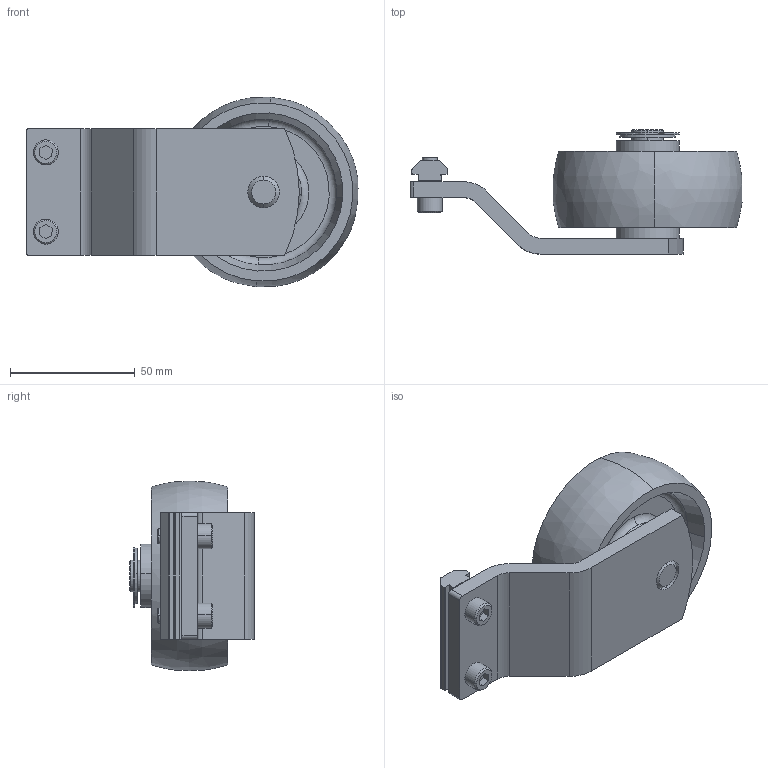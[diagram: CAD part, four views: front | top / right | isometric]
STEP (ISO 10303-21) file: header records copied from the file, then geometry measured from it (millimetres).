
FILE_DESCRIPTION((''),'2;1');
FILE_NAME('390207_ASM','2016-07-21T',('adam.dellomodarme'),(''),'PRO/ENGINEER BY PARAMETRIC TECHNOLOGY CORPORATION, 2012420','PRO/ENGINEER BY PARAMETRIC TECHNOLOGY CORPORATION, 2012420','');
FILE_SCHEMA(('CONFIG_CONTROL_DESIGN'));
Length unit declared in the file: inch
Products named in the file (10): 300748P-1-SOLID1; 300747-1-SOLID1; 300749M_CAE_ASM; 911-518; X920616M; 639717M; 807-849; 915-218; ASM0001_ASM; 390207_ASM
Assembly tree (10 placements, depth 4):
  390207_ASM
    ASM0001_ASM
      300749M_CAE_ASM
        300748P-1-SOLID1
        300747-1-SOLID1
      911-518
      X920616M  x2
      639717M
      807-849
      915-218
Bounding box: 133.02 x 49.81 x 75.98 mm (x, y, z)
Volume: 139986.4 mm3; surface area: 42169.4 mm2
Topology: 8 solids, 8 shells, 159 faces, 391 edges, 258 vertices
Faces by surface type: cylinder 66, plane 63, cone 20, torus 8, bspline 2
Entity records: 4670 total; most frequent: DIRECTION 871, CARTESIAN_POINT 811, ORIENTED_EDGE 706, EDGE_CURVE 353, AXIS2_PLACEMENT_3D 350, VERTEX_POINT 234, CIRCLE 182, VECTOR 171
